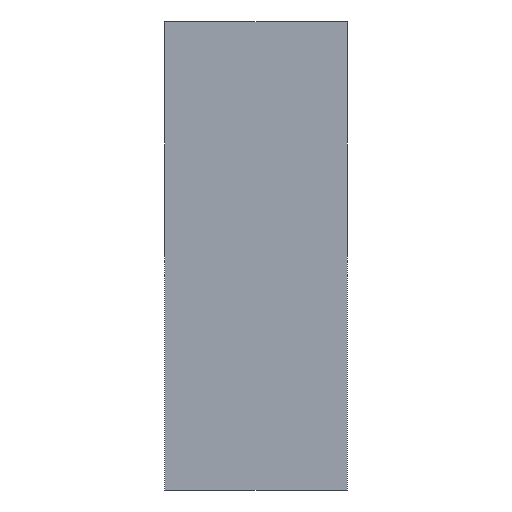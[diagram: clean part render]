
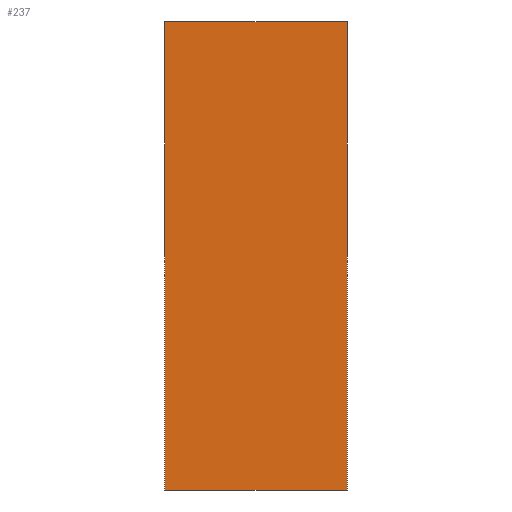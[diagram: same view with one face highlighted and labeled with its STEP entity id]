
A CAD part, front view. The second image highlights one B-rep face of the part: STEP entity #237.
In plain terms, the highlighted planar face has unit normal (0, -1, 0).
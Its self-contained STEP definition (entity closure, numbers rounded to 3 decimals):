
#21 = EDGE_CURVE('',#22,#24,#26,.T.);
#22 = VERTEX_POINT('',#23);
#23 = CARTESIAN_POINT('',(1080.,-180.,-230.));
#24 = VERTEX_POINT('',#25);
#25 = CARTESIAN_POINT('',(1080.,-180.,-153.));
#26 = SURFACE_CURVE('',#27,(#31,#43),.PCURVE_S1.);
#27 = LINE('',#28,#29);
#28 = CARTESIAN_POINT('',(1080.,-180.,-230.));
#29 = VECTOR('',#30,1.);
#30 = DIRECTION('',(0.,0.,1.));
#31 = PCURVE('',#32,#37);
#32 = PLANE('',#33);
#33 = AXIS2_PLACEMENT_3D('',#34,#35,#36);
#34 = CARTESIAN_POINT('',(1080.,-180.,-230.));
#35 = DIRECTION('',(1.,0.,0.));
#36 = DIRECTION('',(0.,0.,1.));
#37 = DEFINITIONAL_REPRESENTATION('',(#38),#42);
#38 = LINE('',#39,#40);
#39 = CARTESIAN_POINT('',(0.,0.));
#40 = VECTOR('',#41,1.);
#41 = DIRECTION('',(1.,0.));
#42 = ( GEOMETRIC_REPRESENTATION_CONTEXT(2) 
PARAMETRIC_REPRESENTATION_CONTEXT() REPRESENTATION_CONTEXT('2D SPACE',''
  ) );
#43 = PCURVE('',#44,#49);
#44 = PLANE('',#45);
#45 = AXIS2_PLACEMENT_3D('',#46,#47,#48);
#46 = CARTESIAN_POINT('',(1080.,-180.,-230.));
#47 = DIRECTION('',(0.,1.,0.));
#48 = DIRECTION('',(0.,0.,1.));
#49 = DEFINITIONAL_REPRESENTATION('',(#50),#54);
#50 = LINE('',#51,#52);
#51 = CARTESIAN_POINT('',(0.,0.));
#52 = VECTOR('',#53,1.);
#53 = DIRECTION('',(1.,0.));
#54 = ( GEOMETRIC_REPRESENTATION_CONTEXT(2) 
PARAMETRIC_REPRESENTATION_CONTEXT() REPRESENTATION_CONTEXT('2D SPACE',''
  ) );
#72 = PLANE('',#73);
#73 = AXIS2_PLACEMENT_3D('',#74,#75,#76);
#74 = CARTESIAN_POINT('',(1080.,-180.,-230.));
#75 = DIRECTION('',(0.,0.,1.));
#76 = DIRECTION('',(1.,0.,0.));
#126 = PLANE('',#127);
#127 = AXIS2_PLACEMENT_3D('',#128,#129,#130);
#128 = CARTESIAN_POINT('',(1080.,-180.,-153.));
#129 = DIRECTION('',(0.,0.,1.));
#130 = DIRECTION('',(1.,0.,0.));
#141 = EDGE_CURVE('',#142,#144,#146,.T.);
#142 = VERTEX_POINT('',#143);
#143 = CARTESIAN_POINT('',(1110.,-180.,-230.));
#144 = VERTEX_POINT('',#145);
#145 = CARTESIAN_POINT('',(1110.,-180.,-153.));
#146 = SURFACE_CURVE('',#147,(#151,#163),.PCURVE_S1.);
#147 = LINE('',#148,#149);
#148 = CARTESIAN_POINT('',(1110.,-180.,-230.));
#149 = VECTOR('',#150,1.);
#150 = DIRECTION('',(0.,0.,1.));
#151 = PCURVE('',#152,#157);
#152 = PLANE('',#153);
#153 = AXIS2_PLACEMENT_3D('',#154,#155,#156);
#154 = CARTESIAN_POINT('',(1110.,-180.,-230.));
#155 = DIRECTION('',(1.,0.,0.));
#156 = DIRECTION('',(0.,0.,1.));
#157 = DEFINITIONAL_REPRESENTATION('',(#158),#162);
#158 = LINE('',#159,#160);
#159 = CARTESIAN_POINT('',(0.,0.));
#160 = VECTOR('',#161,1.);
#161 = DIRECTION('',(1.,0.));
#162 = ( GEOMETRIC_REPRESENTATION_CONTEXT(2) 
PARAMETRIC_REPRESENTATION_CONTEXT() REPRESENTATION_CONTEXT('2D SPACE',''
  ) );
#163 = PCURVE('',#44,#164);
#164 = DEFINITIONAL_REPRESENTATION('',(#165),#169);
#165 = LINE('',#166,#167);
#166 = CARTESIAN_POINT('',(0.,30.));
#167 = VECTOR('',#168,1.);
#168 = DIRECTION('',(1.,0.));
#169 = ( GEOMETRIC_REPRESENTATION_CONTEXT(2) 
PARAMETRIC_REPRESENTATION_CONTEXT() REPRESENTATION_CONTEXT('2D SPACE',''
  ) );
#237 = ADVANCED_FACE('',(#238),#44,.F.);
#238 = FACE_BOUND('',#239,.F.);
#239 = EDGE_LOOP('',(#240,#261,#262,#283));
#240 = ORIENTED_EDGE('',*,*,#241,.F.);
#241 = EDGE_CURVE('',#22,#142,#242,.T.);
#242 = SURFACE_CURVE('',#243,(#247,#254),.PCURVE_S1.);
#243 = LINE('',#244,#245);
#244 = CARTESIAN_POINT('',(1080.,-180.,-230.));
#245 = VECTOR('',#246,1.);
#246 = DIRECTION('',(1.,0.,0.));
#247 = PCURVE('',#44,#248);
#248 = DEFINITIONAL_REPRESENTATION('',(#249),#253);
#249 = LINE('',#250,#251);
#250 = CARTESIAN_POINT('',(0.,0.));
#251 = VECTOR('',#252,1.);
#252 = DIRECTION('',(0.,1.));
#253 = ( GEOMETRIC_REPRESENTATION_CONTEXT(2) 
PARAMETRIC_REPRESENTATION_CONTEXT() REPRESENTATION_CONTEXT('2D SPACE',''
  ) );
#254 = PCURVE('',#72,#255);
#255 = DEFINITIONAL_REPRESENTATION('',(#256),#260);
#256 = LINE('',#257,#258);
#257 = CARTESIAN_POINT('',(0.,0.));
#258 = VECTOR('',#259,1.);
#259 = DIRECTION('',(1.,0.));
#260 = ( GEOMETRIC_REPRESENTATION_CONTEXT(2) 
PARAMETRIC_REPRESENTATION_CONTEXT() REPRESENTATION_CONTEXT('2D SPACE',''
  ) );
#261 = ORIENTED_EDGE('',*,*,#21,.T.);
#262 = ORIENTED_EDGE('',*,*,#263,.T.);
#263 = EDGE_CURVE('',#24,#144,#264,.T.);
#264 = SURFACE_CURVE('',#265,(#269,#276),.PCURVE_S1.);
#265 = LINE('',#266,#267);
#266 = CARTESIAN_POINT('',(1080.,-180.,-153.));
#267 = VECTOR('',#268,1.);
#268 = DIRECTION('',(1.,0.,0.));
#269 = PCURVE('',#44,#270);
#270 = DEFINITIONAL_REPRESENTATION('',(#271),#275);
#271 = LINE('',#272,#273);
#272 = CARTESIAN_POINT('',(77.,0.));
#273 = VECTOR('',#274,1.);
#274 = DIRECTION('',(0.,1.));
#275 = ( GEOMETRIC_REPRESENTATION_CONTEXT(2) 
PARAMETRIC_REPRESENTATION_CONTEXT() REPRESENTATION_CONTEXT('2D SPACE',''
  ) );
#276 = PCURVE('',#126,#277);
#277 = DEFINITIONAL_REPRESENTATION('',(#278),#282);
#278 = LINE('',#279,#280);
#279 = CARTESIAN_POINT('',(0.,0.));
#280 = VECTOR('',#281,1.);
#281 = DIRECTION('',(1.,0.));
#282 = ( GEOMETRIC_REPRESENTATION_CONTEXT(2) 
PARAMETRIC_REPRESENTATION_CONTEXT() REPRESENTATION_CONTEXT('2D SPACE',''
  ) );
#283 = ORIENTED_EDGE('',*,*,#141,.F.);
